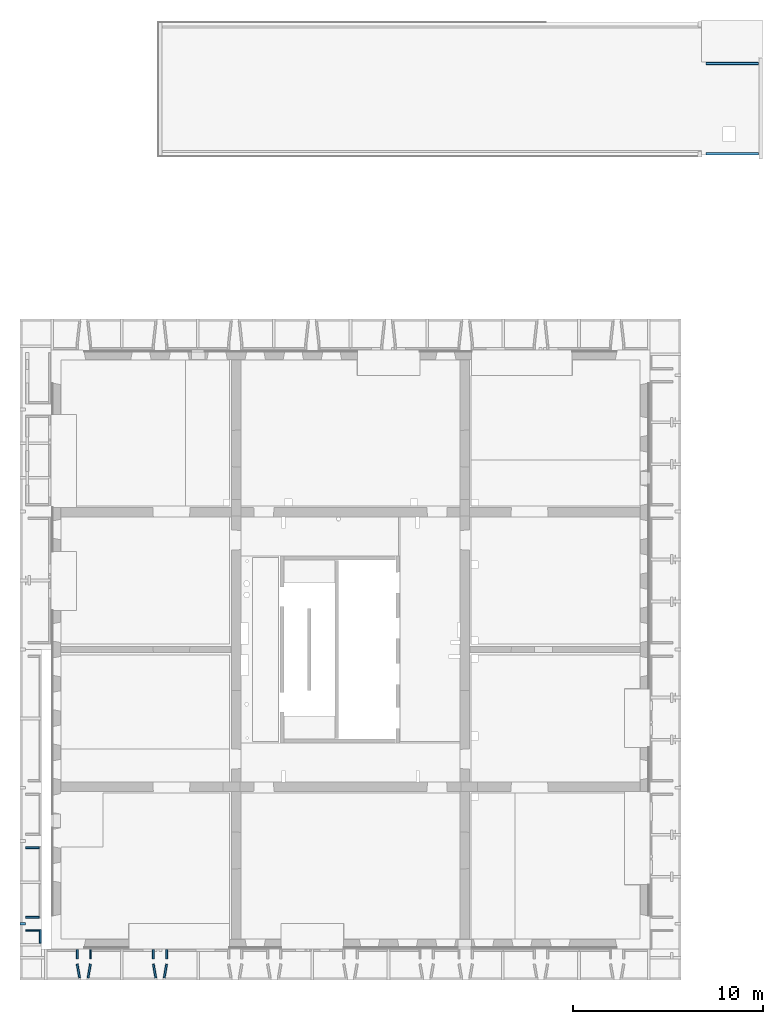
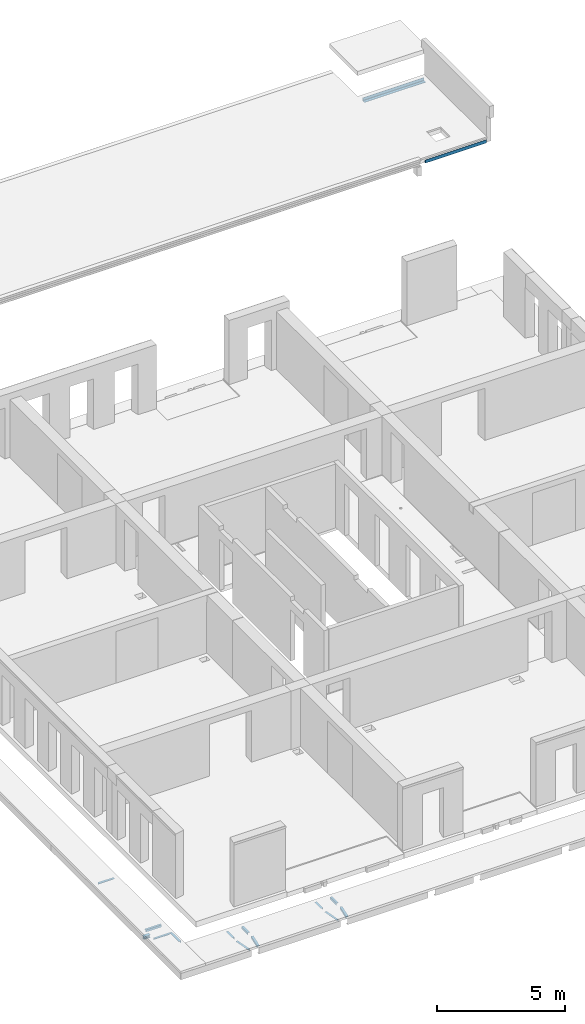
# One storey, part 11 of 27: 15 beams.
"""IFC2X3 building model written with IfcOpenShell, lengths in millimetres."""

from ifc_helpers import new_model, entity, si_unit, converted_unit, derived_unit, direction, frame, frame_2d, origin, place, context, subcontext, project, spatial, polyline, circle_curve, parameter, trimmed, segment, composite_curve, i_section, outline, extrude, material, type_object, element, save


model = new_model("IFC2X3")

# Units and contexts
model_context = context("Model", 3, precision=0.01, world=origin(), true_north=direction((6.12303176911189e-17, 1.0)))
body_context = subcontext(model_context, "Body", "Model", "MODEL_VIEW")
ifc_project = project(units=[si_unit("LENGTHUNIT", "METRE", prefix="MILLI"), si_unit("AREAUNIT", "SQUARE_METRE"), si_unit("VOLUMEUNIT", "CUBIC_METRE"), converted_unit("PLANEANGLEUNIT", "DEGREE", entity("IfcRatioMeasure", 0.0174532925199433), si_unit("PLANEANGLEUNIT", "RADIAN"), dimensions=[0, 0, 0, 0, 0, 0, 0]), si_unit("MASSUNIT", "GRAM", prefix="KILO"), derived_unit("MASSDENSITYUNIT", [(si_unit("MASSUNIT", "GRAM", prefix="KILO"), 1), (si_unit("LENGTHUNIT", "METRE"), -3)]), si_unit("TIMEUNIT", "SECOND"), si_unit("FREQUENCYUNIT", "HERTZ"), si_unit("THERMODYNAMICTEMPERATUREUNIT", "DEGREE_CELSIUS"), derived_unit("THERMALTRANSMITTANCEUNIT", [(si_unit("MASSUNIT", "GRAM", prefix="KILO"), 1), (si_unit("THERMODYNAMICTEMPERATUREUNIT", "KELVIN"), -1), (si_unit("TIMEUNIT", "SECOND"), -3)]), derived_unit("VOLUMETRICFLOWRATEUNIT", [(si_unit("LENGTHUNIT", "METRE"), 3), (si_unit("TIMEUNIT", "SECOND"), -1)]), si_unit("ELECTRICCURRENTUNIT", "AMPERE"), si_unit("ELECTRICVOLTAGEUNIT", "VOLT"), si_unit("POWERUNIT", "WATT"), si_unit("FORCEUNIT", "NEWTON", prefix="KILO"), si_unit("ILLUMINANCEUNIT", "LUX"), si_unit("LUMINOUSFLUXUNIT", "LUMEN"), si_unit("LUMINOUSINTENSITYUNIT", "CANDELA"), derived_unit("USERDEFINED", [(si_unit("MASSUNIT", "GRAM", prefix="KILO"), -1), (si_unit("LENGTHUNIT", "METRE"), -2), (si_unit("TIMEUNIT", "SECOND"), 3), (si_unit("LUMINOUSFLUXUNIT", "LUMEN"), 1)]), derived_unit("LINEARVELOCITYUNIT", [(si_unit("LENGTHUNIT", "METRE"), 1), (si_unit("TIMEUNIT", "SECOND"), -1)]), si_unit("PRESSUREUNIT", "PASCAL"), derived_unit("USERDEFINED", [(si_unit("LENGTHUNIT", "METRE"), -2), (si_unit("MASSUNIT", "GRAM", prefix="KILO"), 1), (si_unit("TIMEUNIT", "SECOND"), -2)])], contexts=[model_context])

# Site, building, storey
site_placement = place(None, origin())
site = spatial("IfcSite", under=ifc_project, at=site_placement, Name="Default", CompositionType="ELEMENT")
building_placement = place(site_placement, origin())
building = spatial("IfcBuilding", under=site, at=building_placement, Name="niet gebruiken", CompositionType="ELEMENT")
storey_placement = place(building_placement, frame((0.0, 0.0, 18000.0)))
storey = spatial("IfcBuildingStorey", under=building, at=storey_placement, Name="05 vijfde verdieping", CompositionType="ELEMENT", Elevation=18000.0)

# Beams
ifc_material = material(Name="NLRS_h2_staal")
beam_type_1 = type_object("IfcBeamType", Name="NLRS_28.11_SF_WPB_stalen ligger hoekprofiel gelijkzijdig_gen:ligger gelijzijdig hoekprofiel LEQU_150x150x15", PredefinedType="BEAM")
beam_1_placement = place(storey_placement, frame((163190.0, 48307.4999999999, -1200.0), z_axis=(0.0, 0.0, 1.0), x_axis=(-1.0, 0.0, 0.0)))
element("IfcBeam", 1, at=beam_1_placement, inside=storey, type_object=beam_type_1, material=ifc_material, Name="NLRS_28.11_SF_WPB_stalen ligger hoekprofiel gelijkzijdig_gen:ligger gelijzijdig hoekprofiel LEQU_150x150x15", ObjectType="NLRS_28.11_SF_WPB_stalen ligger hoekprofiel gelijkzijdig_gen:ligger gelijzijdig hoekprofiel LEQU_150x150x15", context=body_context, shape_type="SweptSolid", body=[
    extrude(outline(composite_curve([segment(polyline([(-93.333333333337, -56.6666666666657), (56.6666666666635, -56.6666666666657)]), True, "CONTINUOUS"), segment(polyline([(56.6666666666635, -56.6666666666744), (56.6666666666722, 93.3333333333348)]), True, "CONTINUOUS"), segment(polyline([(56.6666666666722, 93.3333333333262), (49.6666666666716, 93.3333333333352)]), True, "CONTINUOUS"), segment(trimmed(circle_curve(frame_2d((49.6666666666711, 85.3333333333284), x_axis=(0.0, 1.0)), 7.99999999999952), [parameter(0.0)], [parameter(90.0000000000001)], True, "PARAMETER"), True, "CONTINUOUS"), segment(polyline([(41.6666666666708, 85.3333333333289), (41.6666666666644, -25.6666666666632)]), True, "CONTINUOUS"), segment(trimmed(circle_curve(frame_2d((25.6666666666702, -25.666666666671), x_axis=(1.0, 0.0)), 15.999999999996), [parameter(269.999999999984)], [parameter(0.0)], True, "PARAMETER"), False, "CONTINUOUS"), segment(polyline([(25.6666666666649, -41.666666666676), (-85.3333333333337, -41.6666666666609)]), True, "CONTINUOUS"), segment(trimmed(circle_curve(frame_2d((-85.3333333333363, -49.6666666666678), x_axis=(0.0, 1.0)), 7.9999999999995), [parameter(0.0)], [parameter(90.0000000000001)], True, "PARAMETER"), True, "CONTINUOUS"), segment(polyline([(-93.3333333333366, -49.6666666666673), (-93.333333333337, -56.6666666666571)]), True, "CONTINUOUS")], self_intersect=False)), frame((10.0, 14.1666666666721, -18.3333333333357), z_axis=(1.0, 0.0, 0.0), x_axis=(0.0, 0.0, -1.0)), (0.0, 0.0, 1.0), 2760.00000000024),
])
beam_2_placement = place(storey_placement, frame((163190.0, 43492.5, -1200.0), z_axis=(0.0, 0.0, 1.0), x_axis=(-1.0, 0.0, 0.0)))
element("IfcBeam", 2, at=beam_2_placement, inside=storey, type_object=beam_type_1, material=ifc_material, Name="NLRS_28.11_SF_WPB_stalen ligger hoekprofiel gelijkzijdig_gen:ligger gelijzijdig hoekprofiel LEQU_150x150x15", ObjectType="NLRS_28.11_SF_WPB_stalen ligger hoekprofiel gelijkzijdig_gen:ligger gelijzijdig hoekprofiel LEQU_150x150x15", context=body_context, shape_type="SweptSolid", body=[
    extrude(outline(composite_curve([segment(polyline([(49.6666666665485, -93.3333333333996), (56.6666666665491, -93.3333333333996)]), True, "CONTINUOUS"), segment(polyline([(56.6666666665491, -93.3333333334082), (56.6666666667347, 56.666666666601)]), True, "CONTINUOUS"), segment(polyline([(56.6666666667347, 56.6666666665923), (-93.3333333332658, 56.6666666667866)]), True, "CONTINUOUS"), segment(polyline([(-93.3333333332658, 56.666666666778), (-93.3333333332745, 49.6666666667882)]), True, "CONTINUOUS"), segment(trimmed(circle_curve(frame_2d((-85.3333333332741, 49.6666666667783), x_axis=(-1.0, 0.0)), 7.9999999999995), [parameter(0.0)], [parameter(90.0000000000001)], True, "PARAMETER"), True, "CONTINUOUS"), segment(polyline([(-85.3333333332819, 41.6666666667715), (25.6666666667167, 41.6666666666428)]), True, "CONTINUOUS"), segment(trimmed(circle_curve(frame_2d((25.6666666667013, 25.6666666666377), x_axis=(0.0, 1.0)), 15.999999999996), [parameter(269.999999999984)], [parameter(0.0)], True, "PARAMETER"), False, "CONTINUOUS"), segment(polyline([(41.6666666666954, 25.6666666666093), (41.6666666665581, -85.3333333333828)]), True, "CONTINUOUS"), segment(trimmed(circle_curve(frame_2d((49.6666666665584, -85.3333333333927), x_axis=(-1.0, 0.0)), 7.99999999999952), [parameter(0.0)], [parameter(90.0000000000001)], True, "PARAMETER"), True, "CONTINUOUS")], self_intersect=False)), frame((10.0, -14.1666666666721, -18.3333333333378), z_axis=(1.0, 0.0, 0.0), x_axis=(0.0, 0.0, -1.0)), (0.0, 0.0, 1.0), 2760.00000000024),
])
beam_type_2 = type_object("IfcBeamType", Name="NLRS_28.11_SF_WPB_stalen ligger HEA_gen:ligger HEA 140", PredefinedType="BEAM")
beam_3_placement = place(storey_placement, frame((124700.0, 3100.0, -1015.0), z_axis=(0.0, 0.0, 1.0), x_axis=(-1.0, 0.0, 0.0)))
element("IfcBeam", 3, at=beam_3_placement, inside=storey, type_object=beam_type_2, material=ifc_material, Name="NLRS_28.11_SF_WPB_stalen ligger HEA_gen:ligger HEA 140", ObjectType="NLRS_28.11_SF_WPB_stalen ligger HEA_gen:ligger HEA 140", context=body_context, shape_type="SweptSolid", body=[
    extrude(i_section(OverallWidth=140.000000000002, OverallDepth=133.0, WebThickness=5.49999999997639, FlangeThickness=8.49999999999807, FilletRadius=11.9999999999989, at=frame_2d((-4.33431068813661e-12, 2.70006239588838e-13), x_axis=(0.0, 1.0))), frame((0.0, 0.0, -66.5000000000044), z_axis=(1.0, 0.0, 0.0), x_axis=(0.0, 0.0, -1.0)), (0.0, 0.0, 1.0), 289.999999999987),
])
beam_type_3 = type_object("IfcBeamType", Name="NLRS_28.11_SF_WPB_stalen ligger hoekprofiel gelijkzijdig_gen:ligger gelijzijdig hoekprofiel LEQU_100x100x10", PredefinedType="BEAM")
beam_4_placement = place(storey_placement, frame((125919.845824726, 7149.75423520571, -1015.0), z_axis=(0.0, 0.0, 1.0), x_axis=(-1.0, 0.0, 0.0)))
element("IfcBeam", 4, at=beam_4_placement, inside=storey, type_object=beam_type_3, material=ifc_material, Name="NLRS_28.11_SF_WPB_stalen ligger hoekprofiel gelijkzijdig_gen:ligger gelijzijdig hoekprofiel LEQU_100x100x10", ObjectType="NLRS_28.11_SF_WPB_stalen ligger hoekprofiel gelijkzijdig_gen:ligger gelijzijdig hoekprofiel LEQU_100x100x10", context=body_context, shape_type="SweptSolid", body=[
    extrude(outline(composite_curve([segment(polyline([(-37.7777777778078, -37.7777777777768), (62.2222222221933, -37.7777777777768)]), True, "CONTINUOUS"), segment(polyline([(62.2222222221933, -37.7777777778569), (62.2222222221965, -33.7777777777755)]), True, "CONTINUOUS"), segment(trimmed(circle_curve(frame_2d((56.2222222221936, -33.7777777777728), x_axis=(1.0, 0.0)), 6.00000000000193), [parameter(0.0)], [parameter(89.9999999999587)], True, "PARAMETER"), True, "CONTINUOUS"), segment(polyline([(56.2222222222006, -27.7777777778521), (-15.7777777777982, -27.7777777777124)]), True, "CONTINUOUS"), segment(trimmed(circle_curve(frame_2d((-15.7777777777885, -15.777777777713), x_axis=(0.0, -1.0)), 11.9999999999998), [parameter(270.0)], [parameter(0.0)], True, "PARAMETER"), False, "CONTINUOUS"), segment(polyline([(-27.7777777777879, -15.7777777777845), (-27.7777777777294, 56.2222222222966)]), True, "CONTINUOUS"), segment(trimmed(circle_curve(frame_2d((-33.7777777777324, 56.2222222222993), x_axis=(1.0, 0.0)), 6.00000000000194), [parameter(0.0)], [parameter(89.9999999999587)], True, "PARAMETER"), True, "CONTINUOUS"), segment(polyline([(-33.7777777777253, 62.2222222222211), (-37.7777777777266, 62.2222222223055)]), True, "CONTINUOUS"), segment(polyline([(-37.7777777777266, 62.2222222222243), (-37.7777777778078, -37.7777777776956)]), True, "CONTINUOUS")], self_intersect=False)), frame((512.699999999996, 37.7777777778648, -37.7777777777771), z_axis=(1.0, 0.0, 0.0), x_axis=(0.0, 0.0, -1.0)), (0.0, 0.0, 1.0), 707.299999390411),
])
beam_5_placement = place(storey_placement, frame((125919.845824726, 2799.75423520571, -1015.0), z_axis=(0.0, 0.0, 1.0), x_axis=(-1.0, 0.0, 0.0)))
element("IfcBeam", 5, at=beam_5_placement, inside=storey, type_object=beam_type_3, material=ifc_material, Name="NLRS_28.11_SF_WPB_stalen ligger hoekprofiel gelijkzijdig_gen:ligger gelijzijdig hoekprofiel LEQU_100x100x10", ObjectType="NLRS_28.11_SF_WPB_stalen ligger hoekprofiel gelijkzijdig_gen:ligger gelijzijdig hoekprofiel LEQU_100x100x10", context=body_context, shape_type="SweptSolid", body=[
    extrude(outline(composite_curve([segment(polyline([(-37.7777777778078, -37.7777777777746), (62.2222222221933, -37.7777777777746)]), True, "CONTINUOUS"), segment(polyline([(62.2222222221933, -37.7777777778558), (62.2222222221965, -33.7777777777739)]), True, "CONTINUOUS"), segment(trimmed(circle_curve(frame_2d((56.2222222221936, -33.7777777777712), x_axis=(1.0, 0.0)), 6.00000000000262), [parameter(0.0)], [parameter(89.9999999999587)], True, "PARAMETER"), True, "CONTINUOUS"), segment(polyline([(56.2222222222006, -27.77777777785), (-15.7777777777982, -27.7777777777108)]), True, "CONTINUOUS"), segment(trimmed(circle_curve(frame_2d((-15.7777777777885, -15.7777777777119), x_axis=(0.0, -1.0)), 11.9999999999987), [parameter(269.999999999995)], [parameter(0.0)], True, "PARAMETER"), False, "CONTINUOUS"), segment(polyline([(-27.7777777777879, -15.7777777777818), (-27.7777777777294, 56.2222222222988)]), True, "CONTINUOUS"), segment(trimmed(circle_curve(frame_2d((-33.7777777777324, 56.2222222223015), x_axis=(1.0, 0.0)), 6.00000000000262), [parameter(0.0)], [parameter(89.9999999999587)], True, "PARAMETER"), True, "CONTINUOUS"), segment(polyline([(-33.7777777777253, 62.2222222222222), (-37.7777777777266, 62.2222222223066)]), True, "CONTINUOUS"), segment(polyline([(-37.7777777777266, 62.2222222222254), (-37.7777777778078, -37.7777777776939)]), True, "CONTINUOUS")], self_intersect=False)), frame((512.700000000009, 37.7777777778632, -37.7777777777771), z_axis=(1.0, 0.0, 0.0), x_axis=(0.0, 0.0, -1.0)), (0.0, 0.0, 1.0), 707.299999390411),
])
beam_6_placement = place(storey_placement, frame((125919.845824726, 3400.2457647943, -1015.0), z_axis=(0.0, 0.0, 1.0), x_axis=(-1.0, 0.0, 0.0)))
element("IfcBeam", 6, at=beam_6_placement, inside=storey, type_object=beam_type_3, material=ifc_material, Name="NLRS_28.11_SF_WPB_stalen ligger hoekprofiel gelijkzijdig_gen:ligger gelijzijdig hoekprofiel LEQU_100x100x10", ObjectType="NLRS_28.11_SF_WPB_stalen ligger hoekprofiel gelijkzijdig_gen:ligger gelijzijdig hoekprofiel LEQU_100x100x10", context=body_context, shape_type="SweptSolid", body=[
    extrude(outline(composite_curve([segment(polyline([(-37.7777777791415, -62.2222222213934), (-33.7777777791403, -62.2222222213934)]), True, "CONTINUOUS"), segment(trimmed(circle_curve(frame_2d((-33.7777777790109, -56.2222222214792), x_axis=(0.0, -1.0)), 6.00000000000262), [parameter(0.0)], [parameter(89.9999999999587)], True, "PARAMETER"), True, "CONTINUOUS"), segment(polyline([(-27.7777777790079, -56.222222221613), (-27.7777777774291, 15.7777777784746)]), True, "CONTINUOUS"), segment(trimmed(circle_curve(frame_2d((-15.7777777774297, 15.7777777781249), x_axis=(-1.0, 0.0)), 11.9999999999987), [parameter(269.999999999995)], [parameter(0.0)], True, "PARAMETER"), False, "CONTINUOUS"), segment(polyline([(-15.7777777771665, 27.7777777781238), (56.2222222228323, 27.7777777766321)]), True, "CONTINUOUS"), segment(trimmed(circle_curve(frame_2d((56.2222222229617, 33.7777777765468), x_axis=(0.0, -1.0)), 6.00000000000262), [parameter(0.0)], [parameter(89.9999999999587)], True, "PARAMETER"), True, "CONTINUOUS"), segment(polyline([(62.2222222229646, 33.7777777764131), (62.2222222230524, 37.7777777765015)]), True, "CONTINUOUS"), segment(polyline([(62.2222222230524, 37.7777777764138), (-37.7777777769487, 37.7777777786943)]), True, "CONTINUOUS"), segment(polyline([(-37.7777777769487, 37.7777777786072), (-37.7777777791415, -62.2222222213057)]), True, "CONTINUOUS")], self_intersect=False)), frame((512.700000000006, -37.7777777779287, -37.7777777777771), z_axis=(1.0, 0.0, 0.0), x_axis=(0.0, 0.0, -1.0)), (0.0, 0.0, 1.0), 707.299999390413),
])
beam_7_placement = place(storey_placement, frame((125520.0, 2800.0, -1015.0), z_axis=(0.0, 0.0, 1.0), x_axis=(0.0, -1.0, 0.0)))
element("IfcBeam", 7, at=beam_7_placement, inside=storey, type_object=beam_type_3, material=ifc_material, Name="NLRS_28.11_SF_WPB_stalen ligger hoekprofiel gelijkzijdig_gen:ligger gelijzijdig hoekprofiel LEQU_100x100x10", ObjectType="NLRS_28.11_SF_WPB_stalen ligger hoekprofiel gelijkzijdig_gen:ligger gelijzijdig hoekprofiel LEQU_100x100x10", context=body_context, shape_type="SweptSolid", body=[
    extrude(outline(composite_curve([segment(polyline([(-37.7777777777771, -62.2222222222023), (-33.7777777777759, -62.2222222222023)]), True, "CONTINUOUS"), segment(trimmed(circle_curve(frame_2d((-33.7777777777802, -56.2222222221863), x_axis=(0.0, -1.0)), 6.00000000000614), [parameter(0.0)], [parameter(89.9999999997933)], True, "PARAMETER"), True, "CONTINUOUS"), segment(polyline([(-27.7777777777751, -56.2222222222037), (-27.7777777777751, 15.7777777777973)]), True, "CONTINUOUS"), segment(trimmed(circle_curve(frame_2d((-15.7777777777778, 15.7777777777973), x_axis=(-1.0, 0.0)), 11.9999999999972), [parameter(269.99999999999)], [parameter(0.0)], True, "PARAMETER"), False, "CONTINUOUS"), segment(polyline([(-15.7777777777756, 27.7777777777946), (56.2222222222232, 27.7777777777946)]), True, "CONTINUOUS"), segment(trimmed(circle_curve(frame_2d((56.2222222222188, 33.7777777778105), x_axis=(0.0, -1.0)), 6.00000000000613), [parameter(0.0)], [parameter(89.9999999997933)], True, "PARAMETER"), True, "CONTINUOUS"), segment(polyline([(62.222222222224, 33.7777777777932), (62.222222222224, 37.7777777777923)]), True, "CONTINUOUS"), segment(polyline([(62.222222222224, 37.7777777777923), (-37.7777777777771, 37.7777777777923)]), True, "CONTINUOUS"), segment(polyline([(-37.7777777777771, 37.7777777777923), (-37.7777777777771, -62.2222222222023)]), True, "CONTINUOUS")], self_intersect=False)), frame((10.0000006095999, -37.7777777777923, -37.7777777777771), z_axis=(1.0, 0.0, 0.0), x_axis=(0.0, 0.0, -1.0)), (0.0, 0.0, 1.0), 709.999999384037),
])
beam_8_placement = place(storey_placement, frame((131350.0, 1234.0, -1015.0), z_axis=(0.0, 0.0, 1.0), x_axis=(0.0, 1.0, 0.0)))
element("IfcBeam", 8, at=beam_8_placement, inside=storey, type_object=beam_type_3, material=ifc_material, Name="NLRS_28.11_SF_WPB_stalen ligger hoekprofiel gelijkzijdig_gen:ligger gelijzijdig hoekprofiel LEQU_100x100x10", ObjectType="NLRS_28.11_SF_WPB_stalen ligger hoekprofiel gelijkzijdig_gen:ligger gelijzijdig hoekprofiel LEQU_100x100x10", context=body_context, shape_type="SweptSolid", body=[
    extrude(outline(composite_curve([segment(polyline([(-37.7777777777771, -37.7777777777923), (62.222222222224, -37.7777777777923)]), True, "CONTINUOUS"), segment(polyline([(62.2222222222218, -37.7777777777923), (62.2222222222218, -33.7777777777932)]), True, "CONTINUOUS"), segment(trimmed(circle_curve(frame_2d((56.2222222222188, -33.7777777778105), x_axis=(1.0, 0.0)), 6.00000000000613), [parameter(0.0)], [parameter(89.9999999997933)], True, "PARAMETER"), True, "CONTINUOUS"), segment(polyline([(56.2222222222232, -27.7777777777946), (-15.7777777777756, -27.7777777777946)]), True, "CONTINUOUS"), segment(trimmed(circle_curve(frame_2d((-15.77777777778, -15.7777777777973), x_axis=(0.0, -1.0)), 11.9999999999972), [parameter(269.99999999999)], [parameter(0.0)], True, "PARAMETER"), False, "CONTINUOUS"), segment(polyline([(-27.7777777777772, -15.7777777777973), (-27.7777777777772, 56.2222222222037)]), True, "CONTINUOUS"), segment(trimmed(circle_curve(frame_2d((-33.7777777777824, 56.2222222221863), x_axis=(1.0, 0.0)), 6.00000000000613), [parameter(0.0)], [parameter(89.9999999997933)], True, "PARAMETER"), True, "CONTINUOUS"), segment(polyline([(-33.777777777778, 62.2222222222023), (-37.7777777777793, 62.2222222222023)]), True, "CONTINUOUS"), segment(polyline([(-37.7777777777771, 62.2222222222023), (-37.7777777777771, -37.7777777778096)]), True, "CONTINUOUS")], self_intersect=False)), frame((20.0, -62.2222222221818, -37.7777777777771), z_axis=(1.0, 0.0, 0.0), x_axis=(0.0, 0.0, -1.0)), (0.0, 0.0, 1.0), 496.000000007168),
])
beam_9_placement = place(storey_placement, frame((131480.667404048, 250.795493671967, -1015.0), z_axis=(0.0, 0.0, 1.0), x_axis=(-0.173785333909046, 0.984783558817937, 0.0)))
element("IfcBeam", 9, at=beam_9_placement, inside=storey, type_object=beam_type_3, material=ifc_material, Name="NLRS_28.11_SF_WPB_stalen ligger hoekprofiel gelijkzijdig_gen:ligger gelijzijdig hoekprofiel LEQU_100x100x10", ObjectType="NLRS_28.11_SF_WPB_stalen ligger hoekprofiel gelijkzijdig_gen:ligger gelijzijdig hoekprofiel LEQU_100x100x10", context=body_context, shape_type="SweptSolid", body=[
    extrude(outline(composite_curve([segment(polyline([(-37.7777777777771, -37.7777777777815), (62.222222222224, -37.7777777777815)]), True, "CONTINUOUS"), segment(polyline([(62.2222222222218, -37.7777777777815), (62.2222222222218, -33.7777777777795)]), True, "CONTINUOUS"), segment(trimmed(circle_curve(frame_2d((56.2222222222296, -33.7777777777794), x_axis=(1.0, 0.0)), 5.9999999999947), [parameter(0.0)], [parameter(90.0000000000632)], True, "PARAMETER"), True, "CONTINUOUS"), segment(polyline([(56.2222222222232, -27.7777777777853), (-15.7777777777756, -27.7777777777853)]), True, "CONTINUOUS"), segment(trimmed(circle_curve(frame_2d((-15.7777777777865, -15.777777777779), x_axis=(0.0, -1.0)), 11.9999999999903), [parameter(269.999999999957)], [parameter(0.0)], True, "PARAMETER"), False, "CONTINUOUS"), segment(polyline([(-27.7777777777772, -15.7777777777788), (-27.7777777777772, 56.2222222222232)]), True, "CONTINUOUS"), segment(trimmed(circle_curve(frame_2d((-33.7777777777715, 56.2222222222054), x_axis=(1.0, 0.0)), 5.99999999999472), [parameter(0.0)], [parameter(90.0000000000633)], True, "PARAMETER"), True, "CONTINUOUS"), segment(polyline([(-33.777777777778, 62.222222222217), (-37.7777777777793, 62.222222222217)]), True, "CONTINUOUS"), segment(polyline([(-37.7777777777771, 62.222222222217), (-37.7777777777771, -37.7777777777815)]), True, "CONTINUOUS")], self_intersect=False)), frame((0.0, -62.2222222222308, -37.7777777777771), z_axis=(1.0, 0.0, 0.0), x_axis=(0.0, 0.0, -1.0)), (0.0, 0.0, 1.0), 740.000000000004),
])
beam_10_placement = place(storey_placement, frame((128150.0, 1234.0, -1015.0), z_axis=(0.0, 0.0, 1.0), x_axis=(0.0, 1.0, 0.0)))
element("IfcBeam", 10, at=beam_10_placement, inside=storey, type_object=beam_type_3, material=ifc_material, Name="NLRS_28.11_SF_WPB_stalen ligger hoekprofiel gelijkzijdig_gen:ligger gelijzijdig hoekprofiel LEQU_100x100x10", ObjectType="NLRS_28.11_SF_WPB_stalen ligger hoekprofiel gelijkzijdig_gen:ligger gelijzijdig hoekprofiel LEQU_100x100x10", context=body_context, shape_type="SweptSolid", body=[
    extrude(outline(composite_curve([segment(polyline([(-37.7777777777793, -62.222222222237), (-33.777777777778, -62.222222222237)]), True, "CONTINUOUS"), segment(trimmed(circle_curve(frame_2d((-33.7777777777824, -56.222222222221), x_axis=(0.0, -1.0)), 6.00000000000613), [parameter(0.0)], [parameter(89.9999999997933)], True, "PARAMETER"), True, "CONTINUOUS"), segment(polyline([(-27.7777777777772, -56.2222222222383), (-27.7777777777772, 15.7777777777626)]), True, "CONTINUOUS"), segment(trimmed(circle_curve(frame_2d((-15.77777777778, 15.7777777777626), x_axis=(-1.0, 0.0)), 11.9999999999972), [parameter(269.99999999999)], [parameter(0.0)], True, "PARAMETER"), False, "CONTINUOUS"), segment(polyline([(-15.7777777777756, 27.7777777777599), (56.2222222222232, 27.7777777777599)]), True, "CONTINUOUS"), segment(trimmed(circle_curve(frame_2d((56.2222222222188, 33.7777777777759), x_axis=(0.0, -1.0)), 6.00000000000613), [parameter(0.0)], [parameter(89.9999999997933)], True, "PARAMETER"), True, "CONTINUOUS"), segment(polyline([(62.2222222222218, 33.7777777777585), (62.2222222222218, 37.7777777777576)]), True, "CONTINUOUS"), segment(polyline([(62.222222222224, 37.7777777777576), (-37.7777777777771, 37.7777777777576)]), True, "CONTINUOUS"), segment(polyline([(-37.7777777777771, 37.7777777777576), (-37.7777777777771, -62.222222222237)]), True, "CONTINUOUS")], self_intersect=False)), frame((20.0, 62.2222222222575, -37.7777777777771), z_axis=(1.0, 0.0, 0.0), x_axis=(0.0, 0.0, -1.0)), (0.0, 0.0, 1.0), 495.999999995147),
])
beam_11_placement = place(storey_placement, frame((128019.712800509, 252.949986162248, -1015.0), z_axis=(0.0, 0.0, 1.0), x_axis=(0.173785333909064, 0.984783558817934, 0.0)))
element("IfcBeam", 11, at=beam_11_placement, inside=storey, type_object=beam_type_3, material=ifc_material, Name="NLRS_28.11_SF_WPB_stalen ligger hoekprofiel gelijkzijdig_gen:ligger gelijzijdig hoekprofiel LEQU_100x100x10", ObjectType="NLRS_28.11_SF_WPB_stalen ligger hoekprofiel gelijkzijdig_gen:ligger gelijzijdig hoekprofiel LEQU_100x100x10", context=body_context, shape_type="SweptSolid", body=[
    extrude(outline(composite_curve([segment(polyline([(-37.7777777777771, -62.2222222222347), (-33.7777777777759, -62.2222222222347)]), True, "CONTINUOUS"), segment(trimmed(circle_curve(frame_2d((-33.7777777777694, -56.2222222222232), x_axis=(0.0, -1.0)), 5.99999999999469), [parameter(0.0)], [parameter(90.0000000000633)], True, "PARAMETER"), True, "CONTINUOUS"), segment(polyline([(-27.7777777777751, -56.2222222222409), (-27.7777777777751, 15.7777777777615)]), True, "CONTINUOUS"), segment(trimmed(circle_curve(frame_2d((-15.7777777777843, 15.7777777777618), x_axis=(-1.0, 0.0)), 11.9999999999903), [parameter(269.999999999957)], [parameter(0.0)], True, "PARAMETER"), False, "CONTINUOUS"), segment(polyline([(-15.7777777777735, 27.7777777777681), (56.2222222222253, 27.7777777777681)]), True, "CONTINUOUS"), segment(trimmed(circle_curve(frame_2d((56.2222222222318, 33.7777777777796), x_axis=(0.0, -1.0)), 5.99999999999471), [parameter(0.0)], [parameter(90.0000000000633)], True, "PARAMETER"), True, "CONTINUOUS"), segment(polyline([(62.222222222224, 33.7777777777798), (62.222222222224, 37.7777777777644)]), True, "CONTINUOUS"), segment(polyline([(62.2222222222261, 37.7777777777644), (-37.777777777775, 37.7777777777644)]), True, "CONTINUOUS"), segment(polyline([(-37.777777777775, 37.7777777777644), (-37.777777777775, -62.2222222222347)]), True, "CONTINUOUS")], self_intersect=False)), frame((0.0, 62.2222222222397, -37.7777777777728), z_axis=(1.0, 0.0, 0.0), x_axis=(0.0, 0.0, -1.0)), (0.0, 0.0, 1.0), 732.812217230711),
])
beam_12_placement = place(storey_placement, frame((132150.0, 1234.0, -1015.0), z_axis=(0.0, 0.0, 1.0), x_axis=(0.0, 1.0, 0.0)))
element("IfcBeam", 12, at=beam_12_placement, inside=storey, type_object=beam_type_3, material=ifc_material, Name="NLRS_28.11_SF_WPB_stalen ligger hoekprofiel gelijkzijdig_gen:ligger gelijzijdig hoekprofiel LEQU_100x100x10", ObjectType="NLRS_28.11_SF_WPB_stalen ligger hoekprofiel gelijkzijdig_gen:ligger gelijzijdig hoekprofiel LEQU_100x100x10", context=body_context, shape_type="SweptSolid", body=[
    extrude(outline(composite_curve([segment(polyline([(-37.7777777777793, -62.2222222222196), (-33.777777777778, -62.2222222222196)]), True, "CONTINUOUS"), segment(trimmed(circle_curve(frame_2d((-33.7777777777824, -56.2222222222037), x_axis=(0.0, -1.0)), 6.00000000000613), [parameter(0.0)], [parameter(89.9999999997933)], True, "PARAMETER"), True, "CONTINUOUS"), segment(polyline([(-27.7777777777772, -56.222222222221), (-27.7777777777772, 15.77777777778)]), True, "CONTINUOUS"), segment(trimmed(circle_curve(frame_2d((-15.77777777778, 15.77777777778), x_axis=(-1.0, 0.0)), 11.9999999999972), [parameter(269.99999999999)], [parameter(0.0)], True, "PARAMETER"), False, "CONTINUOUS"), segment(polyline([(-15.7777777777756, 27.7777777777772), (56.2222222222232, 27.7777777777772)]), True, "CONTINUOUS"), segment(trimmed(circle_curve(frame_2d((56.2222222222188, 33.7777777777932), x_axis=(0.0, -1.0)), 6.00000000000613), [parameter(0.0)], [parameter(89.9999999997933)], True, "PARAMETER"), True, "CONTINUOUS"), segment(polyline([(62.2222222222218, 33.7777777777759), (62.2222222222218, 37.777777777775)]), True, "CONTINUOUS"), segment(polyline([(62.222222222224, 37.777777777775), (-37.7777777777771, 37.777777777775)]), True, "CONTINUOUS"), segment(polyline([(-37.7777777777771, 37.777777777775), (-37.7777777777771, -62.2222222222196)]), True, "CONTINUOUS")], self_intersect=False)), frame((20.0, 62.2222222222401, -37.7777777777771), z_axis=(1.0, 0.0, 0.0), x_axis=(0.0, 0.0, -1.0)), (0.0, 0.0, 1.0), 495.999999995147),
])
beam_13_placement = place(storey_placement, frame((132019.712800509, 252.949986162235, -1015.0), z_axis=(0.0, 0.0, 1.0), x_axis=(0.173785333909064, 0.984783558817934, 0.0)))
element("IfcBeam", 13, at=beam_13_placement, inside=storey, type_object=beam_type_3, material=ifc_material, Name="NLRS_28.11_SF_WPB_stalen ligger hoekprofiel gelijkzijdig_gen:ligger gelijzijdig hoekprofiel LEQU_100x100x10", ObjectType="NLRS_28.11_SF_WPB_stalen ligger hoekprofiel gelijkzijdig_gen:ligger gelijzijdig hoekprofiel LEQU_100x100x10", context=body_context, shape_type="SweptSolid", body=[
    extrude(outline(composite_curve([segment(polyline([(-37.7777777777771, -62.2222222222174), (-33.7777777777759, -62.2222222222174)]), True, "CONTINUOUS"), segment(trimmed(circle_curve(frame_2d((-33.7777777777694, -56.2222222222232), x_axis=(0.0, -1.0)), 5.99999999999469), [parameter(0.0)], [parameter(90.0000000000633)], True, "PARAMETER"), True, "CONTINUOUS"), segment(polyline([(-27.7777777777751, -56.2222222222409), (-27.7777777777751, 15.7777777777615)]), True, "CONTINUOUS"), segment(trimmed(circle_curve(frame_2d((-15.7777777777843, 15.7777777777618), x_axis=(-1.0, 0.0)), 11.9999999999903), [parameter(269.999999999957)], [parameter(0.0)], True, "PARAMETER"), False, "CONTINUOUS"), segment(polyline([(-15.7777777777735, 27.7777777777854), (56.2222222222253, 27.7777777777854)]), True, "CONTINUOUS"), segment(trimmed(circle_curve(frame_2d((56.2222222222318, 33.7777777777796), x_axis=(0.0, -1.0)), 5.99999999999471), [parameter(0.0)], [parameter(90.0000000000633)], True, "PARAMETER"), True, "CONTINUOUS"), segment(polyline([(62.222222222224, 33.7777777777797), (62.222222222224, 37.7777777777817)]), True, "CONTINUOUS"), segment(polyline([(62.2222222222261, 37.7777777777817), (-37.777777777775, 37.7777777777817)]), True, "CONTINUOUS"), segment(polyline([(-37.777777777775, 37.7777777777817), (-37.777777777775, -62.2222222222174)]), True, "CONTINUOUS")], self_intersect=False)), frame((0.0, 62.22222222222, -37.7777777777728), z_axis=(1.0, 0.0, 0.0), x_axis=(0.0, 0.0, -1.0)), (0.0, 0.0, 1.0), 732.812217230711),
])
beam_14_placement = place(storey_placement, frame((127350.0, 1234.0, -1015.0), z_axis=(0.0, 0.0, 1.0), x_axis=(0.0, 1.0, 0.0)))
element("IfcBeam", 14, at=beam_14_placement, inside=storey, type_object=beam_type_3, material=ifc_material, Name="NLRS_28.11_SF_WPB_stalen ligger hoekprofiel gelijkzijdig_gen:ligger gelijzijdig hoekprofiel LEQU_100x100x10", ObjectType="NLRS_28.11_SF_WPB_stalen ligger hoekprofiel gelijkzijdig_gen:ligger gelijzijdig hoekprofiel LEQU_100x100x10", context=body_context, shape_type="SweptSolid", body=[
    extrude(outline(composite_curve([segment(polyline([(-37.7777777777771, -37.7777777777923), (62.222222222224, -37.7777777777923)]), True, "CONTINUOUS"), segment(polyline([(62.2222222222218, -37.7777777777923), (62.2222222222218, -33.7777777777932)]), True, "CONTINUOUS"), segment(trimmed(circle_curve(frame_2d((56.2222222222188, -33.7777777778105), x_axis=(1.0, 0.0)), 6.00000000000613), [parameter(0.0)], [parameter(89.9999999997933)], True, "PARAMETER"), True, "CONTINUOUS"), segment(polyline([(56.2222222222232, -27.7777777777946), (-15.7777777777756, -27.7777777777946)]), True, "CONTINUOUS"), segment(trimmed(circle_curve(frame_2d((-15.77777777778, -15.7777777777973), x_axis=(0.0, -1.0)), 11.9999999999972), [parameter(269.99999999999)], [parameter(0.0)], True, "PARAMETER"), False, "CONTINUOUS"), segment(polyline([(-27.7777777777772, -15.7777777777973), (-27.7777777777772, 56.2222222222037)]), True, "CONTINUOUS"), segment(trimmed(circle_curve(frame_2d((-33.7777777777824, 56.2222222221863), x_axis=(1.0, 0.0)), 6.00000000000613), [parameter(0.0)], [parameter(89.9999999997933)], True, "PARAMETER"), True, "CONTINUOUS"), segment(polyline([(-33.777777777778, 62.2222222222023), (-37.7777777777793, 62.2222222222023)]), True, "CONTINUOUS"), segment(polyline([(-37.7777777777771, 62.2222222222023), (-37.7777777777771, -37.7777777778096)]), True, "CONTINUOUS")], self_intersect=False)), frame((20.0, -62.2222222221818, -37.7777777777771), z_axis=(1.0, 0.0, 0.0), x_axis=(0.0, 0.0, -1.0)), (0.0, 0.0, 1.0), 496.000000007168),
])
beam_15_placement = place(storey_placement, frame((127480.667404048, 250.795493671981, -1015.0), z_axis=(0.0, 0.0, 1.0), x_axis=(-0.173785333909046, 0.984783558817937, 0.0)))
element("IfcBeam", 15, at=beam_15_placement, inside=storey, type_object=beam_type_3, material=ifc_material, Name="NLRS_28.11_SF_WPB_stalen ligger hoekprofiel gelijkzijdig_gen:ligger gelijzijdig hoekprofiel LEQU_100x100x10", ObjectType="NLRS_28.11_SF_WPB_stalen ligger hoekprofiel gelijkzijdig_gen:ligger gelijzijdig hoekprofiel LEQU_100x100x10", context=body_context, shape_type="SweptSolid", body=[
    extrude(outline(composite_curve([segment(polyline([(-37.7777777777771, -37.7777777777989), (62.222222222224, -37.7777777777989)]), True, "CONTINUOUS"), segment(polyline([(62.2222222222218, -37.7777777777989), (62.2222222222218, -33.7777777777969)]), True, "CONTINUOUS"), segment(trimmed(circle_curve(frame_2d((56.2222222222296, -33.7777777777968), x_axis=(1.0, 0.0)), 5.9999999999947), [parameter(0.0)], [parameter(90.0000000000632)], True, "PARAMETER"), True, "CONTINUOUS"), segment(polyline([(56.2222222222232, -27.7777777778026), (-15.7777777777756, -27.7777777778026)]), True, "CONTINUOUS"), segment(trimmed(circle_curve(frame_2d((-15.7777777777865, -15.7777777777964), x_axis=(0.0, -1.0)), 11.9999999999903), [parameter(269.999999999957)], [parameter(0.0)], True, "PARAMETER"), False, "CONTINUOUS"), segment(polyline([(-27.7777777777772, -15.7777777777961), (-27.7777777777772, 56.2222222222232)]), True, "CONTINUOUS"), segment(trimmed(circle_curve(frame_2d((-33.7777777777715, 56.2222222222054), x_axis=(1.0, 0.0)), 5.99999999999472), [parameter(0.0)], [parameter(90.0000000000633)], True, "PARAMETER"), True, "CONTINUOUS"), segment(polyline([(-33.777777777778, 62.2222222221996), (-37.7777777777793, 62.2222222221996)]), True, "CONTINUOUS"), segment(polyline([(-37.7777777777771, 62.2222222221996), (-37.7777777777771, -37.7777777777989)]), True, "CONTINUOUS")], self_intersect=False)), frame((0.0, -62.2222222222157, -37.7777777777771), z_axis=(1.0, 0.0, 0.0), x_axis=(0.0, 0.0, -1.0)), (0.0, 0.0, 1.0), 740.000000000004),
])

save(model, "model.ifc")
